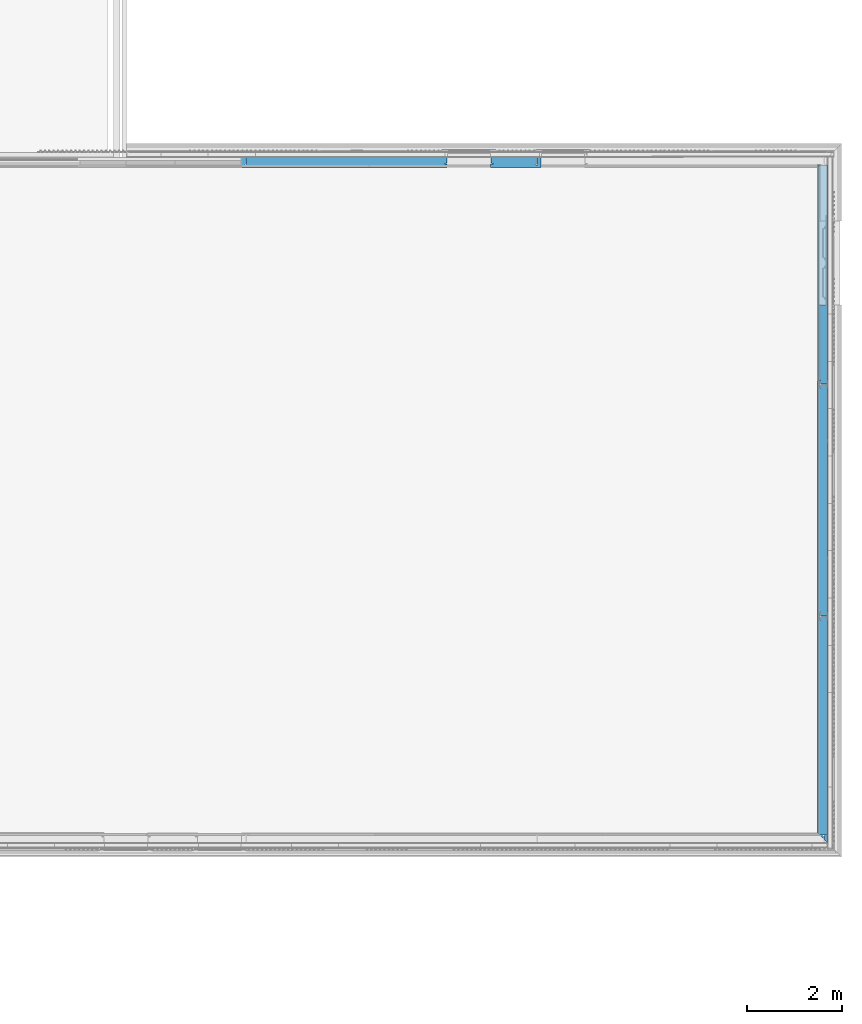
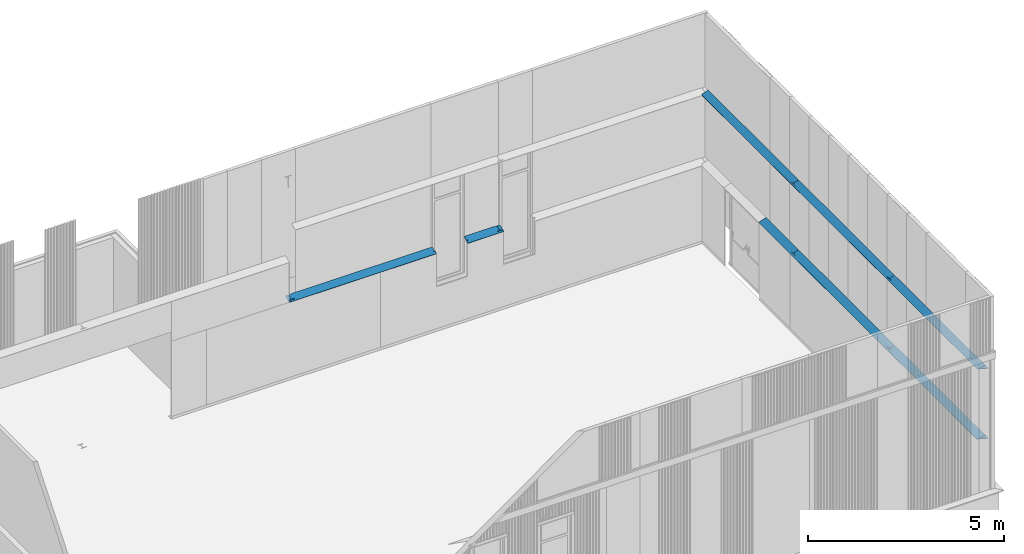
# One storey, part 40 of 338: 4 beams.
"""IFC2X3 building model written with IfcOpenShell, lengths in millimetres."""

from ifc_helpers import new_model, entity, si_unit, converted_unit, derived_unit, money_unit, direction, frame, origin_with_axes, place, context, subcontext, project, spatial, faceted_brep, material, type_object, element, save


model = new_model("IFC2X3")

# Units and contexts
model_context = context("Model", 3, precision=0.01, world=origin_with_axes(), true_north=direction((0.0, 1.0)))
plan_context = context("Plan", 3, precision=0.01, world=origin_with_axes(), true_north=direction((0.0, 1.0)))
body_context = subcontext(model_context, "Body", "Model", "MODEL_VIEW")
ifc_project = project(units=[si_unit("LENGTHUNIT", "METRE", prefix="MILLI"), si_unit("AREAUNIT", "SQUARE_METRE"), si_unit("VOLUMEUNIT", "CUBIC_METRE"), converted_unit("PLANEANGLEUNIT", "DEGREE", entity("IfcPlaneAngleMeasure", 0.0174532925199), si_unit("PLANEANGLEUNIT", "RADIAN"), dimensions=[0, 0, 0, 0, 0, 0, 0]), money_unit("EUR"), converted_unit("TIMEUNIT", "Year", entity("IfcTimeMeasure", 31556926.0), si_unit("TIMEUNIT", "SECOND"), dimensions=[0, 0, 1, 0, 0, 0, 0]), si_unit("MASSUNIT", "GRAM", prefix="KILO"), si_unit("THERMODYNAMICTEMPERATUREUNIT", "DEGREE_CELSIUS"), si_unit("LUMINOUSINTENSITYUNIT", "LUMEN"), si_unit("ENERGYUNIT", "JOULE", prefix="MEGA"), derived_unit("THERMALCONDUCTANCEUNIT", [(si_unit("POWERUNIT", "WATT"), 1), (si_unit("LENGTHUNIT", "METRE"), -1), (si_unit("THERMODYNAMICTEMPERATUREUNIT", "KELVIN"), -1)]), derived_unit("SPECIFICHEATCAPACITYUNIT", [(si_unit("ENERGYUNIT", "JOULE"), 1), (si_unit("MASSUNIT", "GRAM", prefix="KILO"), -1), (si_unit("THERMODYNAMICTEMPERATUREUNIT", "KELVIN"), -1)]), derived_unit("MASSDENSITYUNIT", [(si_unit("MASSUNIT", "GRAM", prefix="KILO"), 1), (si_unit("VOLUMEUNIT", "CUBIC_METRE"), -1)])], contexts=[model_context, plan_context])

# Site, building, storey
site_placement = place(None, origin_with_axes())
site = spatial("IfcSite", under=ifc_project, at=site_placement, Name="Fortuinstraat Woensdrecht", CompositionType="ELEMENT")
building_placement = place(site_placement, origin_with_axes())
building = spatial("IfcBuilding", under=site, at=building_placement, Name="IKC Fortuna", CompositionType="ELEMENT")
storey_placement = place(building_placement, origin_with_axes())
storey = spatial("IfcBuildingStorey", under=building, at=storey_placement, Name="00 begane grond", CompositionType="ELEMENT", Elevation=0.0)

# Beams
ifc_material = material(Name="Hout - Multiplex")
beam_type_1 = type_object("IfcBeamType", Name="Hout - Multiplex 233 x 12", PredefinedType="BEAM")
beam_1_placement = place(storey_placement, frame((59433.4308144, 32370.3126656, 2516.10771999), z_axis=(0.0, 0.0, 1.0), x_axis=(-1.0, 0.0, 0.0)))
element("IfcBeam", 1, at=beam_1_placement, inside=storey, type_object=beam_type_1, material=ifc_material, Name="28_Balk_UNP203", ObjectType="BEAM", context=body_context, shape_type="Brep", body=[
    faceted_brep([(100.503757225, 11214.5256563, -23.810242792), (108.003757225, 11212.5160374, -26.540019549), (161.5, 11212.5160374, -46.0110595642), (93.0037572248, 11281.0122801, -21.080466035), (93.0037572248, 11227.5160374, -21.080466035), (95.013376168, 11220.0160374, -21.8119075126), (108.003757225, 11212.5160374, -39.3087853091), (100.503757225, 11214.5256563, -36.5790085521), (161.5, 11212.5160374, -58.781192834), (93.0037572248, 11281.0122801, -33.8505993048), (93.0037572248, 11227.5160374, -33.8492317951), (95.013376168, 11220.0160374, -34.5806732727)], [[[0, 1, 2, 3, 4, 5]], [[6, 1, 0, 7]], [[8, 2, 1, 6]], [[8, 9, 3, 2]], [[10, 4, 3, 9]], [[11, 5, 4, 10]], [[7, 0, 5, 11]], [[11, 10, 9, 8, 6, 7]]]),
    faceted_brep([(0.00375722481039, 11364.5160374, 0.0), (0.00375722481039, 11212.5160374, 0.0), (4.10424171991, 11212.5160374, 11.2763114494), (4.10424171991, 11364.5160374, 11.2763114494), (84.9941382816, 11220.0160374, -30.933968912), (79.5037572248, 11214.5256563, -28.9356336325), (72.0037572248, 11212.5160374, -26.2058568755), (9.4999999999, 11364.5160374, -3.45771722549), (87.0037572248, 11287.0122801, -31.6667778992), (87.0037572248, 11227.5160374, -31.6654103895), (72.0037572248, 11212.5160374, -13.4370911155), (84.9941382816, 11220.0160374, -18.1652031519), (87.0037572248, 11227.5160374, -18.8966446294), (87.0037572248, 11287.0122801, -18.8966446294), (9.4999999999, 11364.5160374, 9.31241604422), (79.5037572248, 11214.5256563, -16.1668678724)], [[[0, 1, 2, 3]], [[4, 5, 6, 1, 0, 7, 8, 9]], [[10, 2, 1, 6]], [[11, 12, 13, 14, 3, 2, 10, 15]], [[14, 7, 0, 3]], [[4, 11, 15, 5]], [[5, 15, 10, 6]], [[14, 13, 8, 7]], [[8, 13, 12, 9]], [[9, 12, 11, 4]]]),
    faceted_brep([(4.10424171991, 0.0, 11.2763114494), (4.10424171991, 1584.01603736, 11.2763114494), (0.00375722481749, 1584.01603736, 0.0), (0.0, 0.0, 0.0), (9.50375722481, 1656.01603736, 9.31104852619), (9.50375722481, 1584.01603736, 9.31104852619), (222.605421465, 0.0, -68.2516141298), (222.605421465, 11151.4106159, -68.2516141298), (171.0, 11203.0160374, -49.4687767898), (4.10424171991, 11203.0160374, 11.2763114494), (4.10424171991, 6664.01603736, 11.2763114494), (9.50375722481, 6664.01603736, 9.31104852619), (9.50375722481, 6592.01603736, 9.31104852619), (11.513376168, 6584.51603736, 8.57960704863), (17.0037572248, 6579.02565631, 6.58127176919), (24.5037572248, 6577.01603736, 3.85149501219), (146.503757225, 6577.01603736, -40.5528735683), (154.003757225, 6579.02565631, -43.2826503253), (159.494138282, 6584.51603736, -45.2809856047), (161.503757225, 6592.01603736, -46.0124270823), (161.503757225, 6664.01603736, -46.0124270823), (171.003757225, 6664.01603736, -49.4701443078), (171.003757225, 6484.01603736, -49.4701443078), (161.503757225, 6484.01603736, -46.0124270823), (161.503757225, 6556.01603736, -46.0124270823), (159.494138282, 6563.51603736, -45.2809856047), (154.003757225, 6569.00641842, -43.2826503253), (146.503757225, 6571.01603736, -40.5528735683), (24.5037572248, 6571.01603736, 3.85149501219), (17.0037572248, 6569.00641842, 6.58127176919), (11.513376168, 6563.51603736, 8.57960704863), (9.50375722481, 6556.01603736, 9.31104852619), (9.50375722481, 6484.01603736, 9.31104852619), (4.10424171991, 6484.01603736, 11.2763114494), (4.10424171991, 4565.62040391, 11.2763114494), (6.36591214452, 4566.24875325, 10.4531307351), (6.36591214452, 4490.76656802, 10.4531307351), (4.10424171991, 4490.13821868, 11.2763114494), (4.10424171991, 3738.1198394, 11.2763114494), (6.00375720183, 3737.59885693, 10.5849443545), (6.00375720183, 3662.47071744, 10.5849443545), (4.10424171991, 3662.99169991, 11.2763114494), (4.10424171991, 1764.01603736, 11.2763114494), (9.50375722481, 1764.01603736, 9.31104852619), (9.50375722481, 1692.01603736, 9.31104852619), (11.513376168, 1684.51603736, 8.57960704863), (17.0037572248, 1679.02565631, 6.58127176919), (24.5037572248, 1677.01603736, 3.85149501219), (146.503757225, 1677.01603736, -40.5528735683), (154.003757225, 1679.02565631, -43.2826503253), (159.494138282, 1684.51603736, -45.2809856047), (161.503757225, 1692.01603736, -46.0124270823), (161.503757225, 1764.01603736, -46.0124270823), (171.003757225, 1764.01603736, -49.4701443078), (171.003757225, 1584.01603736, -49.4701443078), (161.503757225, 1584.01603736, -46.0124270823), (161.503757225, 1656.01603736, -46.0124270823), (159.494138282, 1663.51603736, -45.2809856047), (154.003757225, 1669.00641842, -43.2826503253), (146.503757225, 1671.01603736, -40.5528735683), (24.5037572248, 1671.01603736, 3.85149501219), (17.0037572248, 1669.00641842, 6.58127176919), (11.513376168, 1663.51603736, 8.57960704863), (9.50375722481, 1584.01603736, -3.45771723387), (9.50375722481, 1692.01603736, -3.45771723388), (9.50375722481, 1764.01603736, -3.45771723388), (0.00375722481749, 1764.01603736, 0.0), (0.00375720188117, 3654.49438975, 0.0), (6.00375720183, 3652.84773179, -2.18518891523), (6.00375720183, 3727.97587128, -2.18518891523), (0.00375720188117, 3729.62252924, 0.0), (0.00375722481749, 6484.01603736, 0.0), (9.50375722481, 6484.01603736, -3.45771723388), (9.50375722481, 6556.01603736, -3.45771723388), (11.513376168, 6563.51603736, -4.18915871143), (17.0037572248, 6569.00641842, -6.18749399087), (24.5037572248, 6571.01603736, -8.91727074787), (146.503757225, 6571.01603736, -53.3216393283), (154.003757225, 6569.00641842, -56.0514160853), (159.494138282, 6563.51603736, -58.0497513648), (161.503757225, 6556.01603736, -58.7811928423), (161.503757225, 6484.01603736, -58.7811928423), (171.003757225, 6484.01603736, -62.2389100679), (171.003757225, 6664.01603736, -62.2389100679), (161.503757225, 6664.01603736, -58.7811928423), (161.503757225, 6592.01603736, -58.7811928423), (159.494138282, 6584.51603736, -58.0497513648), (154.003757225, 6579.02565631, -56.0514160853), (146.503757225, 6577.01603736, -53.3216393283), (24.5037572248, 6577.01603736, -8.91727074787), (17.0037572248, 6579.02565631, -6.18749399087), (11.513376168, 6584.51603736, -4.18915871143), (9.50375722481, 6592.01603736, -3.45771723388), (9.50375722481, 6664.01603736, -3.45771723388), (0.00375722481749, 6664.01603736, 0.0), (0.00375722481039, 11203.0160374, 0.0), (171.0, 11203.0160374, -62.2389100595), (218.501179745, 11155.5148576, -79.5279255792), (218.501179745, 0.0, -79.5279255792), (9.50375722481, 1656.01603736, -3.45771723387), (11.513376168, 1663.51603736, -4.18915871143), (17.0037572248, 1669.00641842, -6.18749399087), (24.5037572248, 1671.01603736, -8.91727074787), (146.503757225, 1671.01603736, -53.3216393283), (154.003757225, 1669.00641842, -56.0514160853), (159.494138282, 1663.51603736, -58.0497513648), (161.503757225, 1656.01603736, -58.7811928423), (161.503757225, 1584.01603736, -58.7811928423), (171.003757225, 1584.01603736, -62.2389100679), (171.003757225, 1764.01603736, -62.2389100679), (161.503757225, 1764.01603736, -58.7811928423), (161.503757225, 1692.01603736, -58.7811928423), (159.494138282, 1684.51603736, -58.0497513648), (154.003757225, 1679.02565631, -56.0514160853), (146.503757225, 1677.01603736, -53.3216393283), (24.5037572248, 1677.01603736, -8.91727074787), (17.0037572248, 1679.02565631, -6.18749399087), (11.513376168, 1684.51603736, -4.18915871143), (6.36591214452, 4575.99643643, -2.31700253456), (0.365912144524, 4574.32948443, -0.133181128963), (0.365912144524, 4498.8472992, -0.133181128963), (6.36591214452, 4500.5142512, -2.31700253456), (0.365912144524, 4497.98612774, 0.995012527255), (0.365912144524, 4573.46831297, 0.995012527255)], [[[0, 1, 2, 3]], [[4, 5, 1, 0, 6, 7, 8, 9, 10, 11, 12, 13, 14, 15, 16, 17, 18, 19, 20, 21, 22, 23, 24, 25, 26, 27, 28, 29, 30, 31, 32, 33, 34, 35, 36, 37, 38, 39, 40, 41, 42, 43, 44, 45, 46, 47, 48, 49, 50, 51, 52, 53, 54, 55, 56, 57, 58, 59, 60, 61, 62]], [[5, 63, 2, 1]], [[64, 65, 66, 67, 68, 69, 70, 71, 72, 73, 74, 75, 76, 77, 78, 79, 80, 81, 82, 83, 84, 85, 86, 87, 88, 89, 90, 91, 92, 93, 94, 95, 96, 97, 98, 3, 2, 63, 99, 100, 101, 102, 103, 104, 105, 106, 107, 108, 109, 110, 111, 112, 113, 114, 115, 116, 117], [118, 119, 120, 121]], [[6, 0, 3, 98]], [[63, 5, 4, 99]], [[6, 98, 97, 7]], [[97, 96, 8, 7]], [[8, 96, 95, 9]], [[95, 94, 10, 9]], [[11, 10, 94, 93]], [[92, 12, 11, 93]], [[91, 13, 12, 92]], [[90, 14, 13, 91]], [[89, 15, 14, 90]], [[88, 16, 15, 89]], [[87, 17, 16, 88]], [[86, 18, 17, 87]], [[85, 19, 18, 86]], [[84, 20, 19, 85]], [[83, 21, 20, 84]], [[82, 22, 21, 83]], [[81, 23, 22, 82]], [[80, 24, 23, 81]], [[79, 25, 24, 80]], [[78, 26, 25, 79]], [[77, 27, 26, 78]], [[76, 28, 27, 77]], [[75, 29, 28, 76]], [[74, 30, 29, 75]], [[73, 31, 30, 74]], [[72, 32, 31, 73]], [[32, 72, 71, 33]], [[34, 33, 71, 70, 38, 37, 122, 123]], [[119, 118, 35, 34, 123]], [[36, 35, 118, 121]], [[36, 121, 120, 122, 37]], [[39, 38, 70, 69]], [[39, 69, 68, 40]], [[40, 68, 67, 41]], [[67, 66, 42, 41]], [[43, 42, 66, 65]], [[64, 44, 43, 65]], [[117, 45, 44, 64]], [[116, 46, 45, 117]], [[115, 47, 46, 116]], [[114, 48, 47, 115]], [[113, 49, 48, 114]], [[112, 50, 49, 113]], [[111, 51, 50, 112]], [[110, 52, 51, 111]], [[109, 53, 52, 110]], [[108, 54, 53, 109]], [[107, 55, 54, 108]], [[106, 56, 55, 107]], [[105, 57, 56, 106]], [[104, 58, 57, 105]], [[103, 59, 58, 104]], [[102, 60, 59, 103]], [[101, 61, 60, 102]], [[100, 62, 61, 101]], [[99, 4, 62, 100]], [[123, 122, 120, 119]]]),
])
beam_2_placement = place(storey_placement, frame((52308.4270571, 35496.2966282, 2516.10771999), z_axis=(0.0, 0.0, 1.0), x_axis=(0.0, -1.0, 0.0)))
element("IfcBeam", 2, at=beam_2_placement, inside=storey, type_object=beam_type_1, material=ifc_material, Name="28_Balk_UNP203", ObjectType="BEAM", context=body_context, shape_type="Brep", body=[
    faceted_brep([(218.501179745, 1065.0, -79.5279255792), (171.0, 1065.0, -62.2389100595), (171.0, 1065.0, -49.4687767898), (222.605421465, 1065.0, -68.2516141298), (161.5, 885.0, -58.781192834), (171.0, 885.0, -62.2389100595), (218.501179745, 0.0, -79.5279255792), (140.0, 0.0, -50.9558327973), (140.0, 60.0, -50.9558327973), (136.738312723, 60.0, -49.768675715), (133.346873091, 58.6739811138, -48.5342926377), (131.754278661, 55.3992548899, -47.9546356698), (128.614272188, 16.2014902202, -46.8117667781), (125.429083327, 9.65203777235, -45.6524528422), (118.646204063, 7.00000000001, -43.1836866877), (21.3537959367, 7.00000000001, -7.77214610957), (14.5709166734, 9.65203777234, -5.3033799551), (11.3857278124, 16.2014902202, -4.14406601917), (8.24572133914, 55.3992548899, -3.0011971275), (6.65312690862, 58.6739811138, -2.42154015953), (3.26168727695, 60.0, -1.1871570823), (0.0, 60.0, 0.0), (0.0, 885.0, 0.0), (9.5, 885.0, -3.45771722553), (9.5, 957.0, -3.45771722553), (11.5096189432, 964.5, -4.18915870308), (17.0, 969.990381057, -6.18749398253), (24.5, 972.0, -8.91727073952), (146.5, 972.0, -53.32163932), (154.0, 969.990381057, -56.051416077), (159.490381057, 964.5, -58.0497513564), (161.5, 957.0, -58.781192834), (171.0, 885.0, -49.4687767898), (9.5, 957.0, 9.31241604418), (9.5, 885.0, 9.31241604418), (4.10424171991, 885.0, 11.2763114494), (4.10424171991, 59.6705696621, 11.2763114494), (6.65312690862, 58.6739811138, 10.3485931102), (8.24572133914, 55.3992548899, 9.76893614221), (11.3857278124, 16.2014902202, 8.62606725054), (14.5709166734, 9.65203777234, 7.46675331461), (21.3537959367, 7.00000000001, 4.99798716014), (118.646204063, 7.00000000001, -30.413553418), (125.429083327, 9.65203777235, -32.8823195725), (128.614272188, 16.2014902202, -34.0416335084), (131.754278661, 55.3992548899, -35.1845024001), (133.346873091, 58.6739811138, -35.764159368), (136.738312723, 60.0, -36.9985424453), (140.0, 60.0, -38.1856995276), (140.0, 0.0, -38.1856995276), (222.605421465, 0.0, -68.2516141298), (161.5, 885.0, -46.0110595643), (161.5, 957.0, -46.0110595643), (159.490381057, 964.5, -45.2796180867), (154.0, 969.990381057, -43.2812828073), (146.5, 972.0, -40.5515060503), (24.5, 972.0, 3.85286253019), (17.0, 969.990381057, 6.58263928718), (11.5096189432, 964.5, 8.58097456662), (3.26168727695, 60.0, 8.96141214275)], [[[0, 1, 2, 3]], [[4, 5, 1, 0, 6, 7, 8, 9, 10, 11, 12, 13, 14, 15, 16, 17, 18, 19, 20, 21, 22, 23, 24, 25, 26, 27, 28, 29, 30, 31]], [[5, 32, 2, 1]], [[33, 34, 35, 36, 37, 38, 39, 40, 41, 42, 43, 44, 45, 46, 47, 48, 49, 50, 3, 2, 32, 51, 52, 53, 54, 55, 56, 57, 58]], [[3, 50, 6, 0]], [[4, 51, 32, 5]], [[50, 49, 7, 6]], [[7, 49, 48, 8]], [[8, 48, 47, 9]], [[9, 47, 46, 10]], [[10, 46, 45, 11]], [[11, 45, 44, 12]], [[12, 44, 43, 13]], [[13, 43, 42, 14]], [[14, 42, 41, 15]], [[15, 41, 40, 16]], [[16, 40, 39, 17]], [[17, 39, 38, 18]], [[18, 38, 37, 19]], [[37, 36, 59, 20, 19]], [[20, 59, 21]], [[36, 35, 22, 21, 59]], [[34, 23, 22, 35]], [[23, 34, 33, 24]], [[24, 33, 58, 25]], [[25, 58, 57, 26]], [[26, 57, 56, 27]], [[27, 56, 55, 28]], [[28, 55, 54, 29]], [[29, 54, 53, 30]], [[30, 53, 52, 31]], [[31, 52, 51, 4]]]),
    faceted_brep([(9.5, 1065.0, 9.31241604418), (161.5, 1065.0, -46.0110595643), (161.5, 1065.0, -58.781192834), (9.5, 1065.0, -3.45771722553), (159.490381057, 985.5, -45.2796180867), (161.5, 993.0, -46.0110595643), (9.5, 993.0, 9.31241604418), (11.5096189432, 985.5, 8.58097456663), (17.0, 980.009618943, 6.58263928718), (24.5, 978.0, 3.85286253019), (146.5, 978.0, -40.5515060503), (154.0, 980.009618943, -43.2812828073), (161.5, 993.0, -58.781192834), (11.5096189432, 985.5, -4.18915870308), (9.5, 993.0, -3.45771722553), (159.490381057, 985.5, -58.0497513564), (154.0, 980.009618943, -56.051416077), (146.5, 978.0, -53.32163932), (24.5, 978.0, -8.91727073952), (17.0, 980.009618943, -6.18749398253)], [[[0, 1, 2, 3]], [[4, 5, 1, 0, 6, 7, 8, 9, 10, 11]], [[12, 2, 1, 5]], [[13, 14, 3, 2, 12, 15, 16, 17, 18, 19]], [[14, 6, 0, 3]], [[12, 5, 4, 15]], [[13, 7, 6, 14]], [[19, 8, 7, 13]], [[18, 9, 8, 19]], [[17, 10, 9, 18]], [[16, 11, 10, 17]], [[15, 4, 11, 16]]]),
])
beam_3_placement = place(storey_placement, frame((47031.4245995, 35498.6703559, 2516.10771999), z_axis=(0.0, 0.0, 1.0), x_axis=(0.0, -1.0, 0.0)))
element("IfcBeam", 3, at=beam_3_placement, inside=storey, type_object=beam_type_1, material=ifc_material, Name="28_Balk_UNP203", ObjectType="BEAM", context=body_context, shape_type="Brep", body=[
    faceted_brep([(161.864108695, 91.5024576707, -46.1435842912), (156.373727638, 96.9928387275, -44.1452490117), (148.873727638, 99.0024576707, -41.4154722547), (26.8737276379, 99.0024576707, 2.98889632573), (19.3737276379, 96.9928387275, 5.71867308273), (13.8833465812, 91.5024576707, 7.71700836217), (11.8737276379, 84.0024576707, 8.44844983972), (11.8737276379, 12.0024576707, 8.44844984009), (163.873727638, 12.0024576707, -46.8750257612), (163.873727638, 84.0024576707, -46.8750257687), (156.373727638, 96.9928387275, -56.9153822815), (161.864108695, 91.5024576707, -58.9137175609), (148.873727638, 99.0024576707, -54.1856055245), (26.8737276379, 99.0024576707, -9.78123694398), (19.3737276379, 96.9928387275, -7.05146018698), (13.8833465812, 91.5024576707, -5.05312490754), (11.8737276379, 84.0024576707, -4.32168342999), (11.8737276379, 12.0024576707, -4.32168342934), (163.873727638, 12.0024576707, -59.6451590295), (163.873727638, 84.0024576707, -59.6451590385)], [[[0, 1, 2, 3, 4, 5, 6, 7, 8, 9]], [[10, 1, 0, 11]], [[12, 2, 1, 10]], [[13, 3, 2, 12]], [[14, 4, 3, 13]], [[15, 5, 4, 14]], [[16, 6, 5, 15]], [[17, 7, 6, 16]], [[17, 18, 8, 7]], [[19, 9, 8, 18]], [[11, 0, 9, 19]], [[11, 19, 18, 17, 16, 15, 14, 13, 12, 10]]]),
    faceted_brep([(2.37370810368, 4297.03685615, -0.863966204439), (2.37372763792, 192.002457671, -0.863966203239), (2.37372763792, 192.002457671, 6.52176307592), (2.37370810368, 4297.03685615, 6.52176308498), (11.8737276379, 120.002457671, -4.32168342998), (11.8737276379, 192.002457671, -4.32168342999), (5.63539538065, 4297.03685615, -2.05111617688), (9.02683501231, 4298.36287504, -3.28549925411), (10.6194294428, 4301.63760126, -3.86515622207), (13.7594359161, 4340.83536593, -5.00802511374), (16.9446247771, 4347.38481838, -6.16733904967), (23.7275040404, 4350.03685615, -8.63610520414), (121.019912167, 4350.03685615, -44.0476457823), (127.80279143, 4347.38481838, -46.5164119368), (130.987980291, 4340.83536593, -47.6757258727), (134.127986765, 4301.63760126, -48.8185947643), (135.720581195, 4298.36287504, -49.3982517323), (139.112020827, 4297.03685615, -50.6326348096), (142.373708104, 4297.03685615, -51.8197918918), (142.373708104, 4357.03685615, -51.8197918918), (218.501179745, 4357.03437065, -79.5279255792), (218.501179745, 0.0, -79.5279255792), (199.651939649, 3.54695828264e-07, -72.6673632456), (199.651939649, 12.0000152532, -72.6673632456), (173.373727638, 12.0024576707, -63.1028762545), (173.373727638, 192.002457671, -63.102876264), (163.873727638, 192.002457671, -59.6451590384), (163.873727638, 120.002457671, -59.6451590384), (161.864108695, 112.502457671, -58.9137175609), (156.373727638, 107.012076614, -56.9153822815), (148.873727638, 105.002457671, -54.1856055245), (26.8737276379, 105.002457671, -9.78123694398), (19.3737276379, 107.012076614, -7.05146018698), (13.8833465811, 112.502457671, -5.05312490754), (11.8737276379, 192.002457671, 8.44844983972), (4.10424171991, 192.002457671, 11.2763114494), (4.10424171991, 4297.03685615, 11.2763114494), (5.63539538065, 4297.03685615, 10.7190170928), (11.8737276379, 120.002457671, 8.44844983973), (9.02683501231, 4298.36287504, 9.4846340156), (10.6194294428, 4301.63760126, 8.90497704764), (13.7594359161, 4340.83536593, 7.76210815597), (16.9446247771, 4347.38481838, 6.60279422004), (23.7275040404, 4350.03685615, 4.13402806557), (121.019912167, 4350.03685615, -31.2775125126), (127.80279143, 4347.38481838, -33.746278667), (130.987980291, 4340.83536593, -34.905592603), (134.127986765, 4301.63760126, -36.0484614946), (135.720581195, 4298.36287504, -36.6281184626), (139.112020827, 4297.03685615, -37.8625015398), (142.373708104, 4297.03685615, -39.0496586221), (142.373708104, 4357.03685615, -39.0496586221), (222.605421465, 4357.03437065, -68.2516141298), (222.605421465, 0.0, -68.2516141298), (219.163172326, 3.54695828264e-07, -66.9987379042), (219.163172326, 3.54695828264e-07, -76.1077199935), (219.163172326, 12.0000152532, -76.1077199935), (219.163172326, 12.0000152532, -66.9987379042), (173.373727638, 12.0024576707, -50.3327429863), (173.373727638, 192.002457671, -50.3327429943), (163.873727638, 192.002457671, -46.8750257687), (163.873727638, 120.002457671, -46.8750257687), (161.864108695, 112.502457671, -46.1435842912), (156.373727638, 107.012076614, -44.1452490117), (148.873727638, 105.002457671, -41.4154722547), (26.8737276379, 105.002457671, 2.98889632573), (19.3737276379, 107.012076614, 5.71867308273), (13.8833465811, 112.502457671, 7.71700836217)], [[[0, 1, 2, 3]], [[4, 5, 1, 0, 6, 7, 8, 9, 10, 11, 12, 13, 14, 15, 16, 17, 18, 19, 20, 21, 22, 23, 24, 25, 26, 27, 28, 29, 30, 31, 32, 33]], [[34, 35, 2, 1, 5]], [[3, 2, 35, 36]], [[37, 6, 0, 3, 36]], [[4, 38, 34, 5]], [[7, 6, 37, 39]], [[8, 7, 39, 40]], [[9, 8, 40, 41]], [[10, 9, 41, 42]], [[11, 10, 42, 43]], [[12, 11, 43, 44]], [[13, 12, 44, 45]], [[14, 13, 45, 46]], [[15, 14, 46, 47]], [[16, 15, 47, 48]], [[17, 16, 48, 49]], [[18, 17, 49, 50]], [[19, 18, 50, 51]], [[52, 20, 19, 51]], [[20, 52, 53, 21]], [[21, 53, 54, 55, 22]], [[56, 23, 22, 55]], [[57, 58, 24, 23, 56]], [[24, 58, 59, 25]], [[25, 59, 60, 26]], [[26, 60, 61, 27]], [[27, 61, 62, 28]], [[28, 62, 63, 29]], [[29, 63, 64, 30]], [[30, 64, 65, 31]], [[31, 65, 66, 32]], [[32, 66, 67, 33]], [[33, 67, 38, 4]], [[60, 59, 58, 57, 54, 53, 52, 51, 50, 49, 48, 47, 46, 45, 44, 43, 42, 41, 40, 39, 37, 36, 35, 34, 38, 67, 66, 65, 64, 63, 62, 61]], [[55, 54, 57, 56]]]),
])
beam_type_2 = type_object("IfcBeamType", Name="Hout - Multiplex 220 x 12", PredefinedType="BEAM")
beam_4_placement = place(storey_placement, frame((59433.4308048, 35325.2966282, 4701.0), z_axis=(0.0, 0.0, 1.0), x_axis=(-1.0, 0.0, 0.0)))
element("IfcBeam", 4, at=beam_4_placement, inside=storey, type_object=beam_type_2, material=ifc_material, Name="28_Balk_UNP203", ObjectType="BEAM", context=body_context, shape_type="Brep", body=[
    faceted_brep([(100.503747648, 14169.5096189, -23.8102393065), (108.003747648, 14167.5, -26.5400160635), (161.503747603, 14167.5, -46.0124235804), (93.0037476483, 14236.0, -21.0804625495), (93.0037476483, 14182.5, -21.0804625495), (95.0133665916, 14175.0, -21.811904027), (108.003747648, 14167.5, -39.3087853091), (100.503747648, 14169.5096189, -36.5790085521), (161.503747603, 14167.5, -58.7825568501), (93.0037476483, 14236.0, -33.8505958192), (93.0037476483, 14182.5, -33.8492317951), (95.0133665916, 14175.0, -34.5806732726)], [[[0, 1, 2, 3, 4, 5]], [[6, 1, 0, 7]], [[8, 2, 1, 6]], [[8, 9, 3, 2]], [[10, 4, 3, 9]], [[11, 5, 4, 10]], [[7, 0, 5, 11]], [[11, 10, 9, 8, 6, 7]]]),
    faceted_brep([(0.00374764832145, 14319.5, 0.0), (0.00374764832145, 14167.5, 0.0), (4.10424171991, 14167.5, 11.2763114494), (4.10424171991, 14319.5, 11.2763114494), (84.9941287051, 14175.0, -30.9339689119), (79.5037476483, 14169.5096189, -28.9356336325), (72.0037476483, 14167.5, -26.2058568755), (9.50374760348, 14319.5, -3.45908124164), (87.0037476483, 14242.0, -31.6667744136), (87.0037476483, 14182.5, -31.6654103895), (72.0037476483, 14167.5, -13.4370876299), (84.9941287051, 14175.0, -18.1651996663), (87.0037476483, 14182.5, -18.8966411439), (87.0037476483, 14242.0, -18.8966411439), (9.50374760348, 14319.5, 9.31105202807), (79.5037476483, 14169.5096189, -16.1668643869)], [[[0, 1, 2, 3]], [[4, 5, 6, 1, 0, 7, 8, 9]], [[10, 2, 1, 6]], [[11, 12, 13, 14, 3, 2, 10, 15]], [[14, 7, 0, 3]], [[4, 11, 15, 5]], [[5, 15, 10, 6]], [[14, 13, 8, 7]], [[8, 13, 12, 9]], [[9, 12, 11, 4]]]),
    faceted_brep([(4.10424171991, 0.0, 11.2763114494), (4.10424171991, 4539.0, 11.2763114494), (0.00374764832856, 4539.0, 0.0), (0.0, 0.0, 0.0), (9.50374764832, 4611.0, 9.31105201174), (9.50374764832, 4539.0, 9.31105201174), (171.000000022, 0.0, -49.4687767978), (210.836618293, 39.8366182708, -63.9681200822), (210.836618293, 14118.1671293, -63.9681200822), (171.003747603, 14158.0, -49.4701408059), (4.10424171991, 14158.0, 11.2763114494), (4.10424171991, 9619.0, 11.2763114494), (9.50374764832, 9619.0, 9.31105201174), (9.50374764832, 9547.0, 9.31105201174), (11.5133665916, 9539.5, 8.57961053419), (17.0037476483, 9534.00961894, 6.58127525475), (24.5037476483, 9532.0, 3.85149849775), (146.503747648, 9532.0, -40.5528700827), (154.003747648, 9534.00961894, -43.2826468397), (159.494128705, 9539.5, -45.2809821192), (161.503747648, 9547.0, -46.0124235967), (161.503747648, 9619.0, -46.0124235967), (171.003747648, 9619.0, -49.4701408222), (171.003747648, 9439.0, -49.4701408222), (161.503747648, 9439.0, -46.0124235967), (161.503747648, 9511.0, -46.0124235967), (159.494128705, 9518.5, -45.2809821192), (154.003747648, 9523.99038106, -43.2826468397), (146.503747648, 9526.0, -40.5528700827), (24.5037476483, 9526.0, 3.85149849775), (17.0037476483, 9523.99038106, 6.58127525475), (11.5133665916, 9518.5, 8.57961053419), (9.50374764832, 9511.0, 9.31105201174), (9.50374764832, 9439.0, 9.31105201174), (4.10424171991, 9439.0, 11.2763114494), (4.10424171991, 8339.53822868, 11.2763114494), (6.00374762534, 8339.01724883, 10.58494784), (6.00374762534, 8263.88910934, 10.58494784), (4.10424171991, 8264.41008919, 11.2763114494), (4.10424171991, 5852.83494899, 11.2763114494), (6.36590256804, 5853.46329567, 10.4531342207), (6.36590256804, 5777.98111044, 10.4531342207), (4.10424171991, 5777.35276376, 11.2763114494), (4.10424171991, 4719.0, 11.2763114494), (9.50374764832, 4719.0, 9.31105201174), (9.50374764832, 4647.0, 9.31105201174), (11.5133665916, 4639.5, 8.57961053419), (17.0037476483, 4634.00961894, 6.58127525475), (24.5037476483, 4632.0, 3.85149849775), (146.503747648, 4632.0, -40.5528700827), (154.003747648, 4634.00961894, -43.2826468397), (159.494128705, 4639.5, -45.2809821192), (161.503747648, 4647.0, -46.0124235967), (161.503747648, 4719.0, -46.0124235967), (171.003747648, 4719.0, -49.4701408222), (171.003747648, 4539.0, -49.4701408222), (161.503747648, 4539.0, -46.0124235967), (161.503747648, 4611.0, -46.0124235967), (159.494128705, 4618.5, -45.2809821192), (154.003747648, 4623.99038106, -43.2826468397), (146.503747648, 4626.0, -40.5528700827), (24.5037476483, 4626.0, 3.85149849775), (17.0037476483, 4623.99038106, 6.58127525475), (11.5133665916, 4618.5, 8.57961053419), (9.50374764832, 4539.0, -3.45771723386), (9.50374764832, 4647.0, -3.45771723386), (9.50374764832, 4719.0, -3.45771723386), (0.00374764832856, 4719.0, 0.0), (0.00374762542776, 8255.91277902, 0.0), (6.00374762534, 8254.26612369, -2.18518542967), (6.00374762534, 8329.39426318, -2.18518542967), (0.00374762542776, 8331.04091851, 0.0), (0.00374764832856, 9439.0, 0.0), (9.50374764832, 9439.0, -3.45771723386), (9.50374764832, 9511.0, -3.45771723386), (11.5133665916, 9518.5, -4.18915871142), (17.0037476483, 9523.99038106, -6.18749399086), (24.5037476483, 9526.0, -8.91727074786), (146.503747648, 9526.0, -53.3216393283), (154.003747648, 9523.99038106, -56.0514160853), (159.494128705, 9518.5, -58.0497513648), (161.503747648, 9511.0, -58.7811928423), (161.503747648, 9439.0, -58.7811928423), (171.003747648, 9439.0, -62.2389100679), (171.003747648, 9619.0, -62.2389100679), (161.503747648, 9619.0, -58.7811928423), (161.503747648, 9547.0, -58.7811928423), (159.494128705, 9539.5, -58.0497513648), (154.003747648, 9534.00961894, -56.0514160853), (146.503747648, 9532.0, -53.3216393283), (24.5037476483, 9532.0, -8.91727074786), (17.0037476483, 9534.00961894, -6.18749399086), (11.5133665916, 9539.5, -4.18915871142), (9.50374764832, 9547.0, -3.45771723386), (9.50374764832, 9619.0, -3.45771723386), (0.00374764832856, 9619.0, 0.0), (0.00374764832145, 14158.0, 0.0), (171.003747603, 14158.0, -62.2402740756), (206.732376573, 14122.271371, -75.2444315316), (206.732376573, 35.7323765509, -75.2444315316), (175.750965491, 39.8366182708, -63.9681200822), (135.91434722, 0.0, -49.4687767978), (9.50374764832, 4611.0, -3.45771723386), (11.5133665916, 4618.5, -4.18915871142), (17.0037476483, 4623.99038106, -6.18749399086), (24.5037476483, 4626.0, -8.91727074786), (146.503747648, 4626.0, -53.3216393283), (154.003747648, 4623.99038106, -56.0514160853), (159.494128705, 4618.5, -58.0497513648), (161.503747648, 4611.0, -58.7811928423), (161.503747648, 4539.0, -58.7811928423), (171.003747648, 4539.0, -62.2389100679), (171.003747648, 4719.0, -62.2389100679), (161.503747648, 4719.0, -58.7811928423), (161.503747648, 4647.0, -58.7811928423), (159.494128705, 4639.5, -58.0497513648), (154.003747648, 4634.00961894, -56.0514160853), (146.503747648, 4632.0, -53.3216393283), (24.5037476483, 4632.0, -8.91727074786), (17.0037476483, 4634.00961894, -6.18749399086), (11.5133665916, 4639.5, -4.18915871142), (0.365902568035, 5861.54402685, -0.133177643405), (0.365902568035, 5786.06184162, -0.133177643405), (6.36590256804, 5787.72879362, -2.316999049), (6.36590256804, 5863.21097885, -2.316999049), (0.365902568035, 5785.19281329, 1.0053090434), (0.365902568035, 5860.67499852, 1.0053090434)], [[[0, 1, 2, 3]], [[4, 5, 1, 0, 6, 7, 8, 9, 10, 11, 12, 13, 14, 15, 16, 17, 18, 19, 20, 21, 22, 23, 24, 25, 26, 27, 28, 29, 30, 31, 32, 33, 34, 35, 36, 37, 38, 39, 40, 41, 42, 43, 44, 45, 46, 47, 48, 49, 50, 51, 52, 53, 54, 55, 56, 57, 58, 59, 60, 61, 62, 63]], [[5, 64, 2, 1]], [[65, 66, 67, 68, 69, 70, 71, 72, 73, 74, 75, 76, 77, 78, 79, 80, 81, 82, 83, 84, 85, 86, 87, 88, 89, 90, 91, 92, 93, 94, 95, 96, 97, 98, 99, 100, 101, 3, 2, 64, 102, 103, 104, 105, 106, 107, 108, 109, 110, 111, 112, 113, 114, 115, 116, 117, 118, 119, 120], [121, 122, 123, 124]], [[0, 3, 101, 6]], [[64, 5, 4, 102]], [[100, 7, 6, 101]], [[98, 8, 7, 99]], [[9, 8, 98, 97]], [[96, 10, 9, 97]], [[10, 96, 95, 11]], [[94, 12, 11, 95]], [[94, 93, 13, 12]], [[93, 92, 14, 13]], [[92, 91, 15, 14]], [[91, 90, 16, 15]], [[90, 89, 17, 16]], [[89, 88, 18, 17]], [[88, 87, 19, 18]], [[87, 86, 20, 19]], [[86, 85, 21, 20]], [[85, 84, 22, 21]], [[84, 83, 23, 22]], [[83, 82, 24, 23]], [[82, 81, 25, 24]], [[81, 80, 26, 25]], [[80, 79, 27, 26]], [[79, 78, 28, 27]], [[78, 77, 29, 28]], [[77, 76, 30, 29]], [[76, 75, 31, 30]], [[75, 74, 32, 31]], [[74, 73, 33, 32]], [[34, 33, 73, 72]], [[71, 35, 34, 72]], [[35, 71, 70, 36]], [[70, 69, 37, 36]], [[69, 68, 38, 37]], [[68, 67, 43, 42, 125, 126, 39, 38]], [[124, 40, 39, 126, 121]], [[40, 124, 123, 41]], [[123, 122, 125, 42, 41]], [[44, 43, 67, 66]], [[65, 45, 44, 66]], [[120, 46, 45, 65]], [[119, 47, 46, 120]], [[118, 48, 47, 119]], [[117, 49, 48, 118]], [[116, 50, 49, 117]], [[115, 51, 50, 116]], [[114, 52, 51, 115]], [[113, 53, 52, 114]], [[112, 54, 53, 113]], [[111, 55, 54, 112]], [[110, 56, 55, 111]], [[109, 57, 56, 110]], [[108, 58, 57, 109]], [[107, 59, 58, 108]], [[106, 60, 59, 107]], [[105, 61, 60, 106]], [[104, 62, 61, 105]], [[103, 63, 62, 104]], [[102, 4, 63, 103]], [[99, 7, 100]], [[125, 122, 121, 126]]]),
    faceted_brep([(181.333509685, 0.0, -66.0000000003), (171.000000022, 0.0, -62.2389100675), (206.732376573, 35.7323765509, -75.2444315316), (206.732376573, 8.9999999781, -75.2444315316), (181.333509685, 8.99999997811, -66.0000000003), (210.836618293, 0.0, -63.9681200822), (206.085652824, 0.0, -62.2389100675), (210.097074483, 0.0, -66.0000000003), (210.836618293, 4.75096546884, -63.9681200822), (210.097074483, 8.99999997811, -66.0000000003)], [[[0, 1, 2, 3, 4]], [[5, 6, 1, 0, 7]], [[2, 1, 6, 8]], [[8, 5, 7, 9, 3, 2]], [[4, 3, 9]], [[0, 4, 9, 7]], [[5, 8, 6]]]),
])

save(model, "model.ifc")
